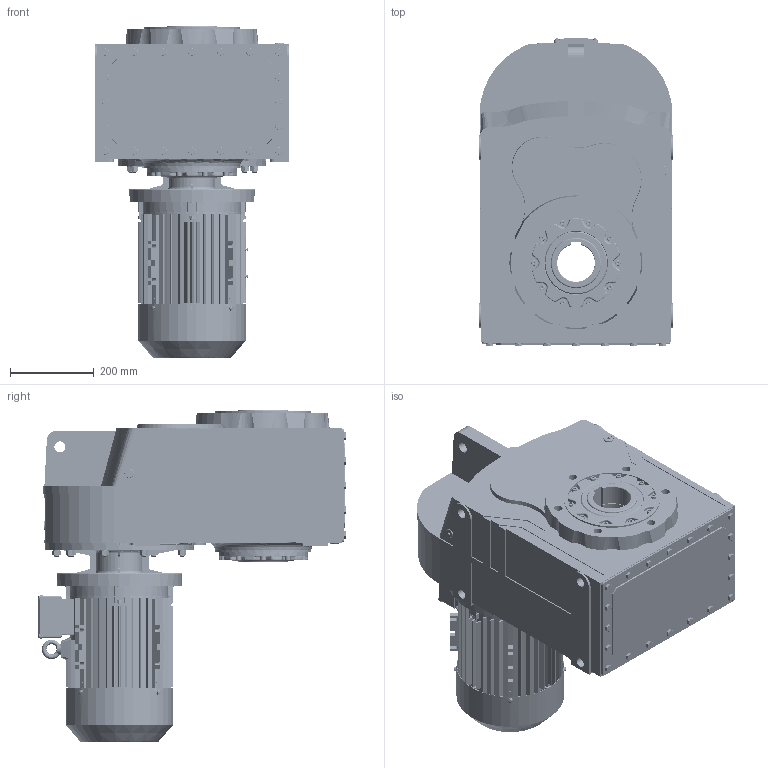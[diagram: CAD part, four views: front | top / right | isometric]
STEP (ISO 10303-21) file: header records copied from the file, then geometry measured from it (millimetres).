
FILE_DESCRIPTION (( 'STEP AP203' ), '1' );
FILE_NAME ('DV_773_0_MX3-132S.STEP', '2018-11-16T08:31:53', ( '' ), ( '' ), 'SwSTEP 2.0', 'SolidWorks 2012', '' );
FILE_SCHEMA (( 'CONFIG_CONTROL_DESIGN' ));
Products named in the file (33): DMX-IE3 132S4   gasket for terminal box base_1; spring lock washers--normal type gb_GB_FASTENER_WASHER_SW 8_1; hexagon socket head cap screws gb_GB_FASTENER_SCREWS_HSHCS M8X35-N_1; hexagon nuts grade c gb_GB_FASTENER_NUT_SNC1 M8-N_1; hex flange bolts-heavy grade b gb_GB_FASTENER_BOLT_HFBB M5X10-N_1; cross recessed pan head screws gb_GB_CROSS_SCREWS_TYPE1 M5X10-10  H type-N_1; DMX-IE3 132S4   fan cover_1; DMX-IE3 132S4   rotor2_1; DMX-IE3 132S4  terminal box_1; DMX-IE3 132S4   terminal box cover_1; DMX-IE3 132S4  flange B3_1; DMX-IE3 132S4   rotor1_1; DMX-IE3 132S4  casing_1; DMX-IE3 132S4  flange B5; ML22A_Varsayìlan_1; 63132B5_Varsayìlan; D773_Varsayìlan_1; DV_773_0_MX3-132S; MX3-132S_B5; cross recessed pan head screws gb_GB_CROSS_SCREWS_TYPE1 M5X25-25  H type-N_1; plain parallel keys_GB_CONNECTING_PIECE_KEYS_CSK 10X70_1; cross recessed pan head screws gb_GB_CROSS_SCREWS_TYPE1 M5X8-8  H type-N_1; plain washers--product grade c gb_GB_FASTENER_WASHER_SMWC 4_1; DMX-IE3 132S4 fan_1; hexagon socket head cap screws gb_GB_FASTENER_SCREWS_HSHCS M8X45-N; eyebolts gb_GB_FASTENER_SCREWS_FRS M10-S_1; circlips for shaft--type a large gb_GB_CONNECTING_PIECE_RING_RRA 29_1; DMX-IE3 132S4 grouding mark_1; cross recessed pan head screws gb_GB_CROSS_SCREWS_TYPE1 M4X6-6  H type-N_1; DMX-IE3 132S4  connection board_1; DMX-IE3 132S4   gasket for terminal box cover_1; DMX-IE3 132S4  cable glands_1; DMX-IE3 132S4  oil seal_1
Assembly tree (64 placements, depth 3):
  DV_773_0_MX3-132S
    D773_Varsayìlan_1
    63132B5_Varsayìlan
    ML22A_Varsayìlan_1
    MX3-132S_B5
      DMX-IE3 132S4  casing_1
      DMX-IE3 132S4  flange B5
      DMX-IE3 132S4  flange B3_1
      DMX-IE3 132S4   rotor1_1
      DMX-IE3 132S4   rotor2_1
      DMX-IE3 132S4   terminal box cover_1
      DMX-IE3 132S4  terminal box_1
      DMX-IE3 132S4   fan cover_1
      hex flange bolts-heavy grade b gb_GB_FASTENER_BOLT_HFBB M5X10-N_1  x4
      cross recessed pan head screws gb_GB_CROSS_SCREWS_TYPE1 M5X10-10  H type-N_1  x4
      hexagon nuts grade c gb_GB_FASTENER_NUT_SNC1 M8-N_1  x7
      spring lock washers--normal type gb_GB_FASTENER_WASHER_SW 8_1  x8
      hexagon socket head cap screws gb_GB_FASTENER_SCREWS_HSHCS M8X35-N_1  x5
      DMX-IE3 132S4   gasket for terminal box base_1
      DMX-IE3 132S4  connection board_1
      DMX-IE3 132S4   gasket for terminal box cover_1
      DMX-IE3 132S4  oil seal_1
      DMX-IE3 132S4  cable glands_1  x2
      circlips for shaft--type a large gb_GB_CONNECTING_PIECE_RING_RRA 29_1
      DMX-IE3 132S4 grouding mark_1
      cross recessed pan head screws gb_GB_CROSS_SCREWS_TYPE1 M4X6-6  H type-N_1  x3
      eyebolts gb_GB_FASTENER_SCREWS_FRS M10-S_1
      plain washers--product grade c gb_GB_FASTENER_WASHER_SMWC 4_1
      hexagon socket head cap screws gb_GB_FASTENER_SCREWS_HSHCS M8X45-N  x3
      DMX-IE3 132S4 fan_1
      cross recessed pan head screws gb_GB_CROSS_SCREWS_TYPE1 M5X25-25  H type-N_1  x2
      cross recessed pan head screws gb_GB_CROSS_SCREWS_TYPE1 M5X8-8  H type-N_1  x4
      plain parallel keys_GB_CONNECTING_PIECE_KEYS_CSK 10X70_1
Bounding box: 464 x 736.4 x 792.1 mm (x, y, z)
Volume: 87888955.9 mm3; surface area: 3930188.6 mm2
Topology: 68 solids, 70 shells, 6382 faces, 16697 edges, 10608 vertices
Faces by surface type: plane 3442, cylinder 1545, cone 792, bspline 599, torus 4
Entity records: 203161 total; most frequent: CARTESIAN_POINT 58542, ORIENTED_EDGE 29794, DIRECTION 28376, EDGE_CURVE 14897, AXIS2_PLACEMENT_3D 9774, VERTEX_POINT 9550, LINE 8828, VECTOR 8828
